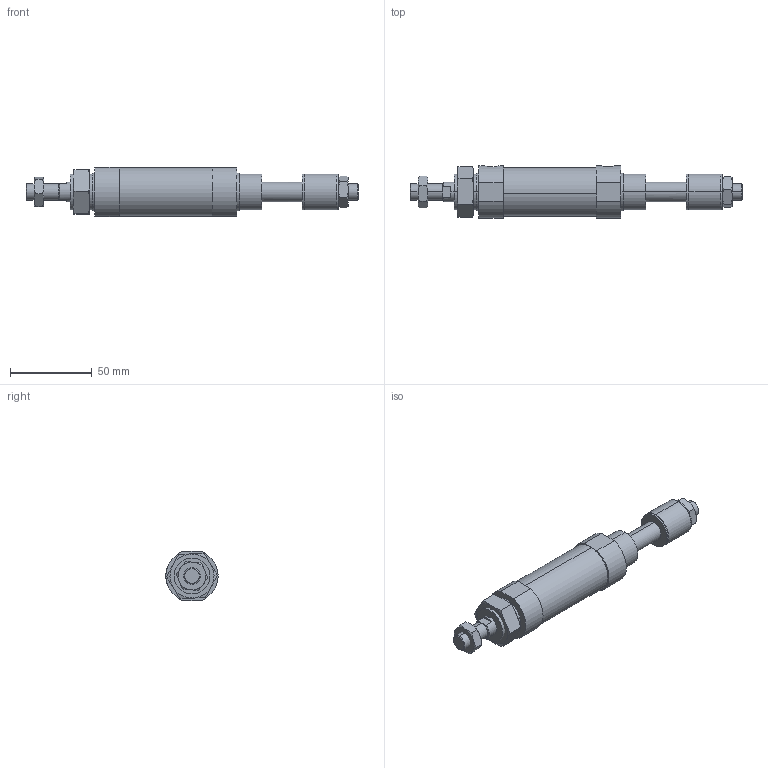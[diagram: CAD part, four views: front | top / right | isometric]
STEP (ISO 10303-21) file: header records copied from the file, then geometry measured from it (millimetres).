
FILE_DESCRIPTION (( 'STEP AP203' ), '1' );
FILE_NAME ('JGA7-25-25-N.STEP', '2016-04-20T01:56:15', ( '' ), ( '' ), 'SwSTEP 2.0', 'SolidWorks 2014', '' );
FILE_SCHEMA (( 'CONFIG_CONTROL_DESIGN' ));
Length unit declared in the file: millimetre
Products named in the file (7): JGA7-25A-25; M22x1.5-10mm; JGA7-25-Turn; JGA7-25-25-N; JGLH2-25B; M10x1.5-6mm; 25-25
Assembly tree (7 placements, depth 2):
  JGA7-25-25-N
    JGLH2-25B
    25-25
    JGA7-25A-25
    M10x1.5-6mm  x2
    M22x1.5-10mm
    JGA7-25-Turn
Bounding box: 203 x 32 x 30 mm (x, y, z)
Volume: 92351.4 mm3; surface area: 25893.7 mm2
Topology: 7 solids, 7 shells, 149 faces, 324 edges, 196 vertices
Faces by surface type: plane 57, cylinder 42, torus 38, cone 12
Entity records: 4527 total; most frequent: CARTESIAN_POINT 1013, DIRECTION 606, ORIENTED_EDGE 544, EDGE_CURVE 272, AXIS2_PLACEMENT_3D 257, VERTEX_POINT 168, EDGE_LOOP 144, ADVANCED_FACE 127
